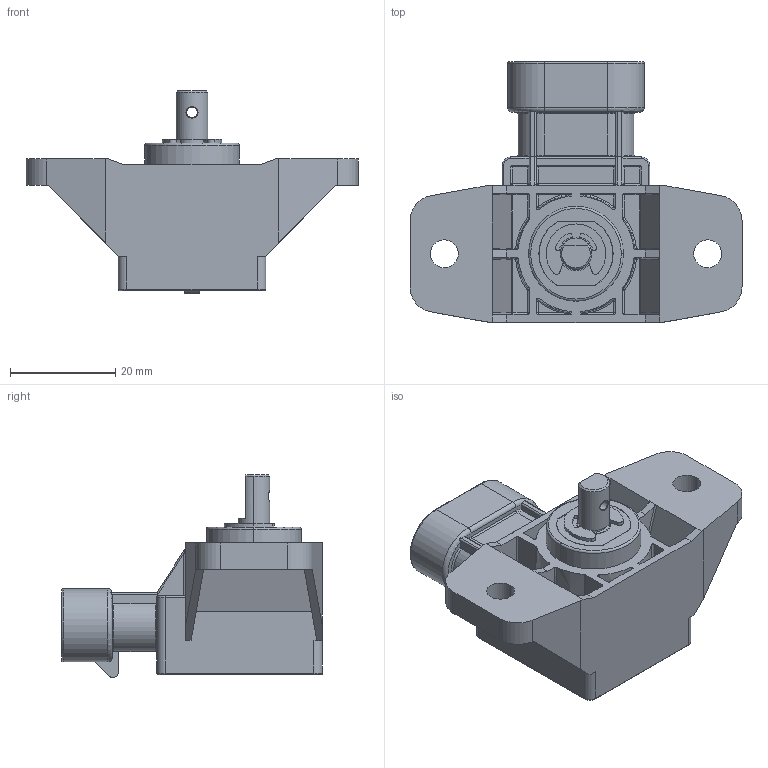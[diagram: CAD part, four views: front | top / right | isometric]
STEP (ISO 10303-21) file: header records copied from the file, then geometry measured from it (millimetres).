
FILE_DESCRIPTION (( 'STEP AP203' ), '1' );
FILE_NAME ('GR3PA S5H2MS xxx xxxx X0.STEP', '2024-12-19T15:28:01', ( '' ), ( '' ), 'SwSTEP 2.0', 'SolidWorks 2024', '' );
FILE_SCHEMA (( 'CONFIG_CONTROL_DESIGN' ));
Length unit declared in the file: millimetre
Products named in the file (1): GR3PA S5H2MS xxx xxxx X0
Bounding box: 63 x 49.5 x 38.47 mm (x, y, z)
Volume: 25097.8 mm3; surface area: 12756.8 mm2
Topology: 7 solids, 7 shells, 525 faces, 1290 edges, 767 vertices
Faces by surface type: plane 210, cylinder 180, bspline 46, sphere 40, torus 36, cone 13
Entity records: 17914 total; most frequent: CARTESIAN_POINT 5875, ORIENTED_EDGE 2508, DIRECTION 2471, EDGE_CURVE 1254, AXIS2_PLACEMENT_3D 898, VERTEX_POINT 767, LINE 675, VECTOR 675
